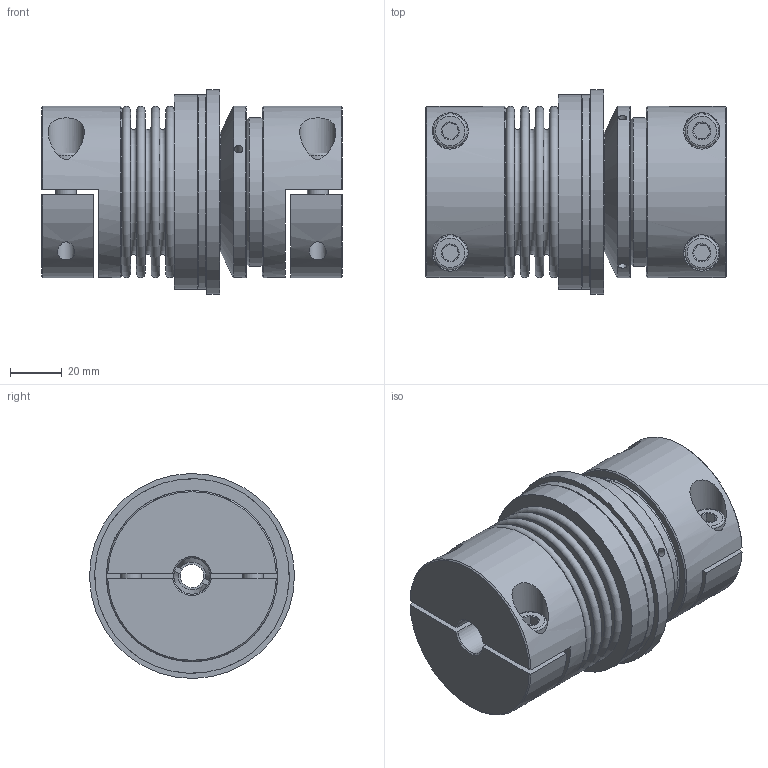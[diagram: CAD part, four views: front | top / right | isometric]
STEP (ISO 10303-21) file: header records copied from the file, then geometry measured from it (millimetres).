
FILE_DESCRIPTION( ( 'KBE1/14 - N7H8 - N14H7 - 98 Sh' ), '1' );
FILE_NAME( 'K:/Konstruktion/Fertigungszeichnungen/Überlastkupplung/KBK-B/KBK-BHH/60/KBK-BHH-60-116.stp', '14.12.2015', ( 'KBK-Antriebstechnik' ), ( 'KBK-Antriebstechnik' ), 'PSStep 16.0.42', 'Solid Edge St6', ' ' );
FILE_SCHEMA( ( 'AUTOMOTIVE_DESIGN { 1 0 10303 214 1 1 1 1 }' ) );
Length unit declared in the file: millimetre
Products named in the file (29): KBK L-P-60 Grundkörper_1-oa1; KBK L-P-60 Grundkörper_1-oa0; a_35_1; KB4H8-60; KN4H-60-oa2; Spreiznabe KB8-60-oa3; Stellring 60_1; Druckring 60_1; inafag_61807-2rsr_94nni7wzvbwcn1eekm49s9gtt; inafag_61807-2rsr_94nni7wzvbwcn1eekm49s9gtt_01; inafag_61807-2rsr_94nni7wzvbwcn1eekm49s9gtt_02; inafag_61807-2rsr_94nni7wzvbwcn1eekm49s9gtt_03; inafag_61807-2rsr_94nni7wzvbwcn1eekm49s9gtt_04; inafag_61807-2rsr_94nni7wzvbwcn1eekm49s9gtt_05; inafag_61807-2rsr_94nni7wzvbwcn1eekm49s9gtt_06; inafag_61807-2rsr_94nni7wzvbwcn1eekm49s9gtt_07; inafag_61807-2rsr_94nni7wzvbwcn1eekm49s9gtt_08; inafag_61807-2rsr_94nni7wzvbwcn1eekm49s9gtt_09; KBK-B-H-60; Flansch BK60; ISO EN DIN 4762 M8x20; Assem1; BK60_Standard_0; KN4H-60_1
Assembly tree (31 placements, depth 4):
  Assem1
    BK60_Standard_0
    KN4H-60_1
    KN4H-60_1
    ISO EN DIN 4762 M8x20  x2
    KBK-B-H-60
      Flansch BK60
      ISO EN DIN 4762 M8x20  x2
      KBK L-P-60 Grundkörper_1-oa1
        KBK L-P-60 Grundkörper_1-oa0
      Stellring 60_1
        Stellring 60_1
      Druckring 60_1
        Druckring 60_1
      a_35_1
        a_35_1
      KB4H8-60
        KN4H-60-oa2
        KN4H-60-oa2
        Spreiznabe KB8-60-oa3
      inafag_61807-2rsr_94nni7wzvbwcn1eekm49s9gtt
        inafag_61807-2rsr_94nni7wzvbwcn1eekm49s9gtt_01
        inafag_61807-2rsr_94nni7wzvbwcn1eekm49s9gtt_02
        inafag_61807-2rsr_94nni7wzvbwcn1eekm49s9gtt_03
        inafag_61807-2rsr_94nni7wzvbwcn1eekm49s9gtt_04
        inafag_61807-2rsr_94nni7wzvbwcn1eekm49s9gtt_05
        inafag_61807-2rsr_94nni7wzvbwcn1eekm49s9gtt_06
        inafag_61807-2rsr_94nni7wzvbwcn1eekm49s9gtt_07
        inafag_61807-2rsr_94nni7wzvbwcn1eekm49s9gtt_08
        inafag_61807-2rsr_94nni7wzvbwcn1eekm49s9gtt_09
Bounding box: 116 x 78.99 x 78.99 mm (x, y, z)
Volume: 305929.3 mm3; surface area: 144527.3 mm2
Topology: 24 solids, 24 shells, 335 faces, 682 edges, 433 vertices
Faces by surface type: plane 138, cylinder 105, cone 56, torus 32, sphere 4
Full cylindrical faces by diameter (mm): 2.5 x2, 3.242 x3, 4 x3, 4.2 x4, 6 x6, 6.647 x4, 7 x4, 8 x8, 8.5 x4, 9 x1, 13 x4, 14 x6, 15 x1, 25 x1, 33 x1, 35 x3, 39 x4, 39.705 x1, 42 x1, 42.995 x1, 43.7 x2, 44.3 x4, 46 x2, 46.5 x1, 47 x2, 50 x1, 56.3 x3, 57.3 x3, 57.4 x2, 61.3 x1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
Entity records: 9734 total; most frequent: CARTESIAN_POINT 2478, DIRECTION 1166, ORIENTED_EDGE 756, AXIS2_PLACEMENT_3D 537, EDGE_LOOP 474, EDGE_CURVE 378, FACE_OUTER_BOUND 359, VERTEX_POINT 337
